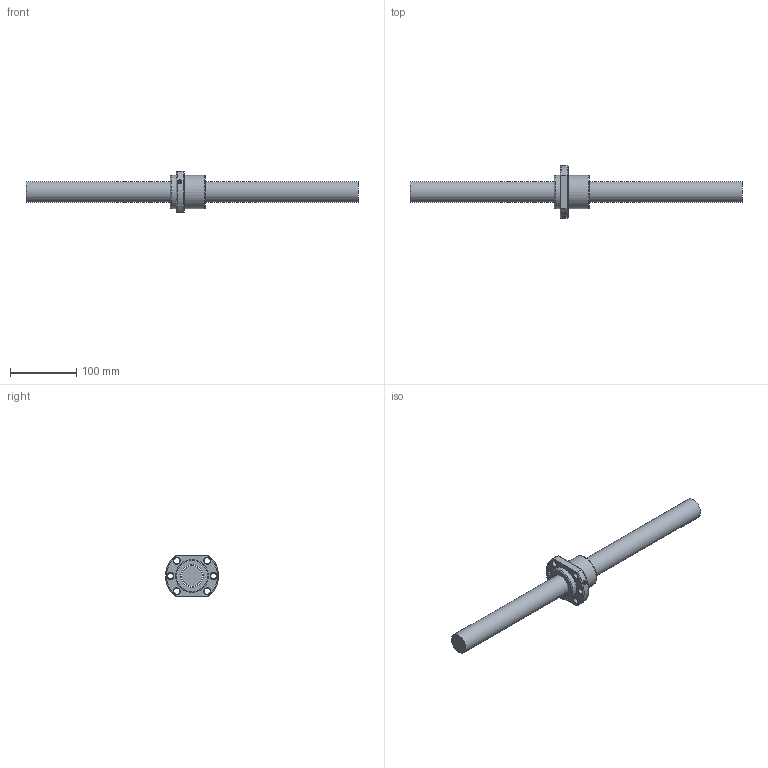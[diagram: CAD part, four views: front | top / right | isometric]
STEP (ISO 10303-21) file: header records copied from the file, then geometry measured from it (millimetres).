
FILE_DESCRIPTION (( 'STEP AP203' ), '1' );
FILE_NAME ('SFA3210-3.8.step', '2024-05-07T07:25:41', ( '' ), ( '' ), 'SwSTEP 2.0', 'SolidWorks 2022', '' );
FILE_SCHEMA (( 'CONFIG_CONTROL_DESIGN' ));
Length unit declared in the file: millimetre
Products named in the file (1): SFA3210-3.8
Bounding box: 500 x 79.74 x 62 mm (x, y, z)
Volume: 458123.9 mm3; surface area: 73131.4 mm2
Topology: 2 solids, 2 shells, 56 faces, 134 edges, 84 vertices
Faces by surface type: cylinder 19, plane 13, cone 13, torus 6, bspline 5
Full cylindrical faces by diameter (mm): 2.5 x1, 5 x5, 9 x6, 31 x1, 33.7 x1, 50 x2
Entity records: 3189 total; most frequent: CARTESIAN_POINT 2102, DIRECTION 198, ORIENTED_EDGE 172, EDGE_LOOP 96, AXIS2_PLACEMENT_3D 91, EDGE_CURVE 86, VERTEX_POINT 70, FACE_OUTER_BOUND 65
